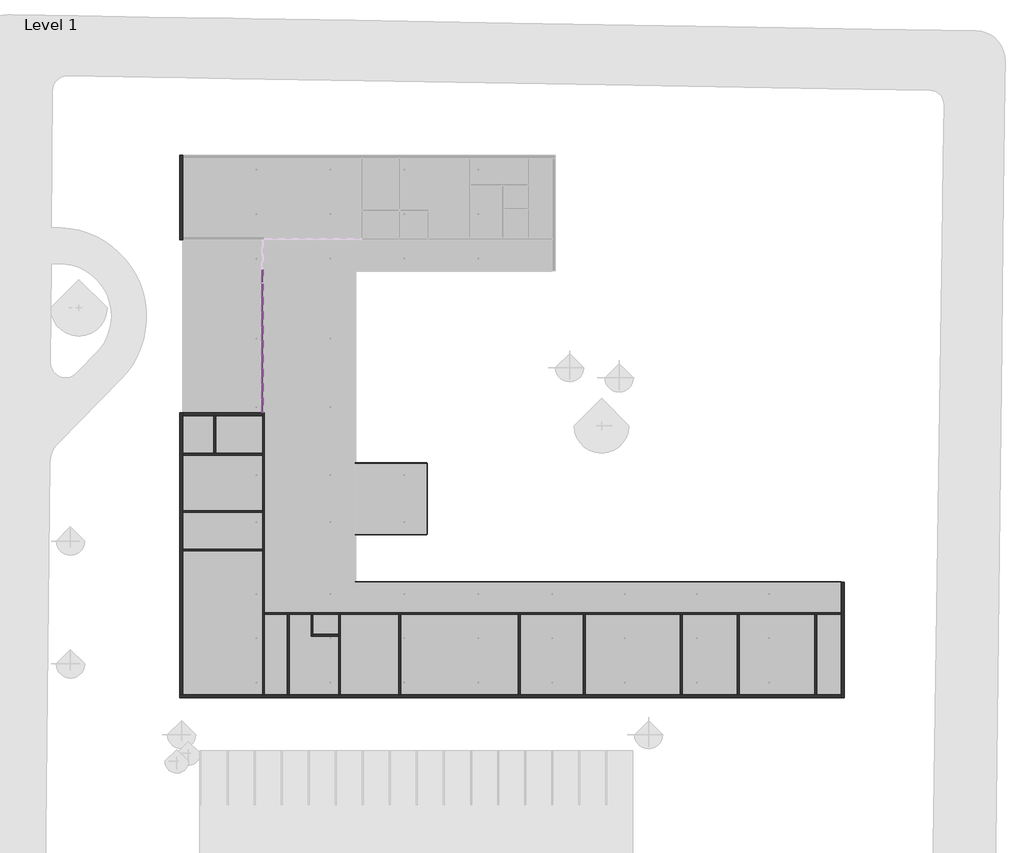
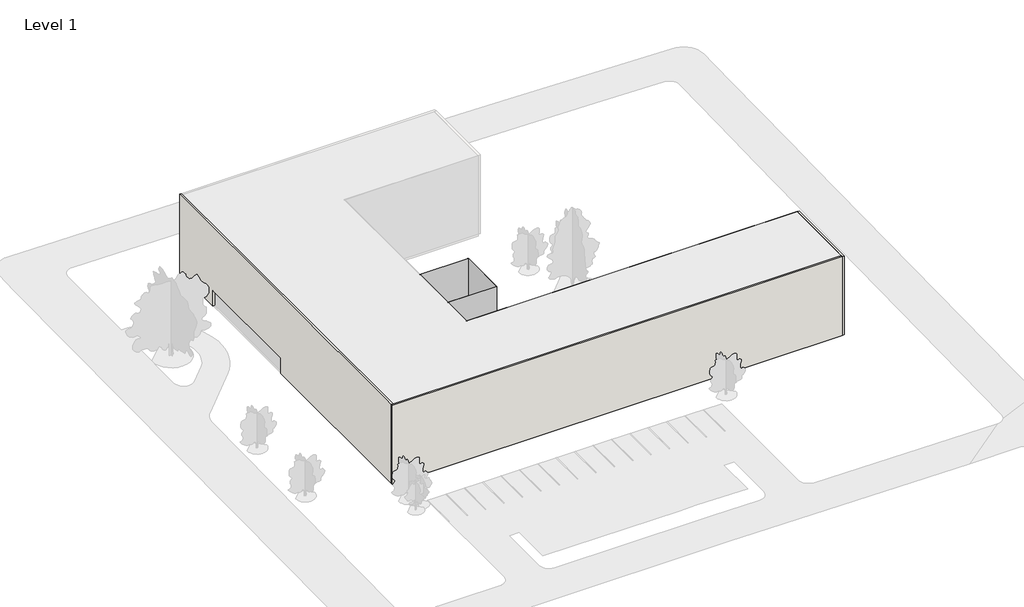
# One storey, part 1 of 3: 48 members, 24 plates, 21 walls.
"""IFC4 building model written with IfcOpenShell, lengths in millimetres."""

from ifc_helpers import new_model, si_unit, origin, origin_with_axes, place, context, project, spatial, polyline, outline, extrude, faceted_brep, transform, mapped, element, save
from components import rectangular_mullion_50mm_x_150mm_6225e4e3, rectangular_mullion_50mm_x_150mm_163d5e45, rectangular_mullion_50mm_x_150mm_662c37b1, rectangular_mullion_50mm_x_150mm_770ce294, rectangular_mullion_50mm_x_150mm_758487db, rectangular_mullion_50mm_x_150mm_08a56cfe, rectangular_mullion_50mm_x_150mm_59c12ec9, rectangular_mullion_50mm_x_150mm_5efacfcf, system_panel_glazed_1087ea87, system_panel_glazed_c5c625d1, system_panel_glazed_4d811192, system_panel_glazed_99e3e085, system_panel_glazed_d6c32529, system_panel_glazed_4e1d9d04, system_panel_glazed_46d9e1d9

model = new_model("IFC4")

# Units and contexts
model_context = context("Model", 3, world=origin())
ifc_project = project(units=[si_unit("LENGTHUNIT", "METRE", prefix="MILLI")], contexts=[model_context])

# Site, building, storey
site = spatial("IfcSite", under=ifc_project)
building = spatial("IfcBuilding", under=site)
storey = spatial("IfcBuildingStorey", under=building, Name="Level 1", Elevation=0.0)

# Members
placement = place(None, origin())
rectangular_mullion_50mm_x_150mm_shape = rectangular_mullion_50mm_x_150mm_6225e4e3(model_context)
element("IfcMember", 1, ObjectType="Rectangular Mullion : 50mm x 150mm", at=placement, inside=storey, context=model_context, shape_type="MappedRepresentation", body=[
    mapped(rectangular_mullion_50mm_x_150mm_shape, transform((-1903.8386635, 18146.0799802, 0.0), x_axis=(0.0, -1.0, 0.0), y_axis=(-1.0, 0.0, 0.0), z_axis=(0.0, 0.0, -1.0))),
])
element("IfcMember", 2, ObjectType="Rectangular Mullion : 50mm x 150mm", at=placement, inside=storey, context=model_context, shape_type="MappedRepresentation", body=[
    mapped(rectangular_mullion_50mm_x_150mm_shape, transform((-1903.8386635, 16687.9133136, 0.0), x_axis=(0.0, -1.0, 0.0), y_axis=(-1.0, 0.0, 0.0), z_axis=(0.0, 0.0, -1.0))),
])
element("IfcMember", 3, ObjectType="Rectangular Mullion : 50mm x 150mm", at=placement, inside=storey, context=model_context, shape_type="MappedRepresentation", body=[
    mapped(rectangular_mullion_50mm_x_150mm_shape, transform((-1903.8386635, 15229.746647, 0.0), x_axis=(0.0, -1.0, 0.0), y_axis=(-1.0, 0.0, 0.0), z_axis=(0.0, 0.0, -1.0))),
])
element("IfcMember", 4, ObjectType="Rectangular Mullion : 50mm x 150mm", at=placement, inside=storey, context=model_context, shape_type="MappedRepresentation", body=[
    mapped(rectangular_mullion_50mm_x_150mm_shape, transform((-1903.8386635, 13771.5799804, 0.0), x_axis=(0.0, -1.0, 0.0), y_axis=(-1.0, 0.0, 0.0), z_axis=(0.0, 0.0, -1.0))),
])
element("IfcMember", 5, ObjectType="Rectangular Mullion : 50mm x 150mm", at=placement, inside=storey, context=model_context, shape_type="MappedRepresentation", body=[
    mapped(rectangular_mullion_50mm_x_150mm_shape, transform((-1903.8386635, 12313.4133138, 0.0), x_axis=(0.0, -1.0, 0.0), y_axis=(-1.0, 0.0, 0.0), z_axis=(0.0, 0.0, -1.0))),
])
element("IfcMember", 6, ObjectType="Rectangular Mullion : 50mm x 150mm", at=placement, inside=storey, context=model_context, shape_type="MappedRepresentation", body=[
    mapped(rectangular_mullion_50mm_x_150mm_shape, transform((-1903.8386635, 10855.2466472, 0.0), x_axis=(0.0, -1.0, 0.0), y_axis=(-1.0, 0.0, 0.0), z_axis=(0.0, 0.0, -1.0))),
])
element("IfcMember", 7, ObjectType="Rectangular Mullion : 50mm x 150mm", at=placement, inside=storey, context=model_context, shape_type="MappedRepresentation", body=[
    mapped(rectangular_mullion_50mm_x_150mm_shape, transform((-1903.8386635, 9397.0799805, 0.0), x_axis=(0.0, -1.0, 0.0), y_axis=(-1.0, 0.0, 0.0), z_axis=(0.0, 0.0, -1.0))),
])
element("IfcMember", 8, ObjectType="Rectangular Mullion : 50mm x 150mm", at=placement, inside=storey, context=model_context, shape_type="MappedRepresentation", body=[
    mapped(rectangular_mullion_50mm_x_150mm_shape, transform((-1903.8386635, 7938.9133139, 0.0), x_axis=(0.0, -1.0, 0.0), y_axis=(-1.0, 0.0, 0.0), z_axis=(0.0, 0.0, -1.0))),
])
element("IfcMember", 9, ObjectType="Rectangular Mullion : 50mm x 150mm", at=placement, inside=storey, context=model_context, shape_type="MappedRepresentation", body=[
    mapped(rectangular_mullion_50mm_x_150mm_shape, transform((-1903.8386635, 6480.7466473, 0.0), x_axis=(0.0, -1.0, 0.0), y_axis=(-1.0, 0.0, 0.0), z_axis=(0.0, 0.0, -1.0))),
])
rectangular_mullion_50mm_x_150mm_2_shape = rectangular_mullion_50mm_x_150mm_163d5e45(model_context)
element("IfcMember", 10, ObjectType="Rectangular Mullion : 50mm x 150mm", at=placement, inside=storey, context=model_context, shape_type="MappedRepresentation", body=[
    mapped(rectangular_mullion_50mm_x_150mm_2_shape, transform((-1903.8386635, 16687.9133136, 2400.0), x_axis=(0.0, -1.0, 0.0), y_axis=(-1.0, 0.0, 0.0), z_axis=(0.0, 0.0, -1.0))),
])
element("IfcMember", 11, ObjectType="Rectangular Mullion : 50mm x 150mm", at=placement, inside=storey, context=model_context, shape_type="MappedRepresentation", body=[
    mapped(rectangular_mullion_50mm_x_150mm_2_shape, transform((-1903.8386635, 15229.746647, 2400.0), x_axis=(0.0, -1.0, 0.0), y_axis=(-1.0, 0.0, 0.0), z_axis=(0.0, 0.0, -1.0))),
])
element("IfcMember", 12, ObjectType="Rectangular Mullion : 50mm x 150mm", at=placement, inside=storey, context=model_context, shape_type="MappedRepresentation", body=[
    mapped(rectangular_mullion_50mm_x_150mm_2_shape, transform((-1903.8386635, 13771.5799804, 2400.0), x_axis=(0.0, -1.0, 0.0), y_axis=(-1.0, 0.0, 0.0), z_axis=(0.0, 0.0, -1.0))),
])
element("IfcMember", 13, ObjectType="Rectangular Mullion : 50mm x 150mm", at=placement, inside=storey, context=model_context, shape_type="MappedRepresentation", body=[
    mapped(rectangular_mullion_50mm_x_150mm_2_shape, transform((-1903.8386635, 12313.4133138, 2400.0), x_axis=(0.0, -1.0, 0.0), y_axis=(-1.0, 0.0, 0.0), z_axis=(0.0, 0.0, -1.0))),
])
element("IfcMember", 14, ObjectType="Rectangular Mullion : 50mm x 150mm", at=placement, inside=storey, context=model_context, shape_type="MappedRepresentation", body=[
    mapped(rectangular_mullion_50mm_x_150mm_2_shape, transform((-1903.8386635, 10855.2466472, 2400.0), x_axis=(0.0, -1.0, 0.0), y_axis=(-1.0, 0.0, 0.0), z_axis=(0.0, 0.0, -1.0))),
])
element("IfcMember", 15, ObjectType="Rectangular Mullion : 50mm x 150mm", at=placement, inside=storey, context=model_context, shape_type="MappedRepresentation", body=[
    mapped(rectangular_mullion_50mm_x_150mm_2_shape, transform((-1903.8386635, 9397.0799805, 2400.0), x_axis=(0.0, -1.0, 0.0), y_axis=(-1.0, 0.0, 0.0), z_axis=(0.0, 0.0, -1.0))),
])
element("IfcMember", 16, ObjectType="Rectangular Mullion : 50mm x 150mm", at=placement, inside=storey, context=model_context, shape_type="MappedRepresentation", body=[
    mapped(rectangular_mullion_50mm_x_150mm_2_shape, transform((-1903.8386635, 7938.9133139, 2400.0), x_axis=(0.0, -1.0, 0.0), y_axis=(-1.0, 0.0, 0.0), z_axis=(0.0, 0.0, -1.0))),
])
element("IfcMember", 17, ObjectType="Rectangular Mullion : 50mm x 150mm", at=placement, inside=storey, context=model_context, shape_type="MappedRepresentation", body=[
    mapped(rectangular_mullion_50mm_x_150mm_2_shape, transform((-1903.8386635, 6480.7466473, 2400.0), x_axis=(0.0, -1.0, 0.0), y_axis=(-1.0, 0.0, 0.0), z_axis=(0.0, 0.0, -1.0))),
])
rectangular_mullion_50mm_x_150mm_3_shape = rectangular_mullion_50mm_x_150mm_662c37b1(model_context)
element("IfcMember", 18, ObjectType="Rectangular Mullion : 50mm x 150mm", at=placement, inside=storey, context=model_context, shape_type="MappedRepresentation", body=[
    mapped(rectangular_mullion_50mm_x_150mm_3_shape, transform((-1903.8386635, 5022.5799804, 0.0), x_axis=(0.0, -1.0, 0.0), y_axis=(-1.0, 0.0, 0.0), z_axis=(0.0, 0.0, -1.0))),
])
rectangular_mullion_50mm_x_150mm_4_shape = rectangular_mullion_50mm_x_150mm_770ce294(model_context)
element("IfcMember", 19, ObjectType="Rectangular Mullion : 50mm x 150mm", at=placement, inside=storey, context=model_context, shape_type="MappedRepresentation", body=[
    mapped(rectangular_mullion_50mm_x_150mm_4_shape, transform((-1903.8386635, 5022.5799804, 2400.0), x_axis=(0.0, -1.0, 0.0), y_axis=(-1.0, 0.0, 0.0), z_axis=(0.0, 0.0, -1.0))),
])
rectangular_mullion_50mm_x_150mm_5_shape = rectangular_mullion_50mm_x_150mm_758487db(model_context)
element("IfcMember", 20, ObjectType="Rectangular Mullion : 50mm x 150mm", at=placement, inside=storey, context=model_context, shape_type="MappedRepresentation", body=[
    mapped(rectangular_mullion_50mm_x_150mm_5_shape, transform((-1903.8386635, 5072.5799804, 3550.0), x_axis=(0.0, 0.0, 1.0), y_axis=(-1.0, 0.0, 0.0), z_axis=(0.0, -1.0, 0.0))),
])
element("IfcMember", 21, ObjectType="Rectangular Mullion : 50mm x 150mm", at=placement, inside=storey, context=model_context, shape_type="MappedRepresentation", body=[
    mapped(rectangular_mullion_50mm_x_150mm_5_shape, transform((-1903.8386635, 6455.7466473, 0.0), x_axis=(0.0, 0.0, -1.0), y_axis=(-1.0, 0.0, 0.0), z_axis=(0.0, 1.0, 0.0))),
])
rectangular_mullion_50mm_x_150mm_6_shape = rectangular_mullion_50mm_x_150mm_08a56cfe(model_context)
element("IfcMember", 22, ObjectType="Rectangular Mullion : 50mm x 150mm", at=placement, inside=storey, context=model_context, shape_type="MappedRepresentation", body=[
    mapped(rectangular_mullion_50mm_x_150mm_6_shape, transform((-1903.8386635, 18171.0799802, 3550.0), x_axis=(0.0, 0.0, 1.0), y_axis=(-1.0, 0.0, 0.0), z_axis=(0.0, -1.0, 0.0))),
])
element("IfcMember", 23, ObjectType="Rectangular Mullion : 50mm x 150mm", at=placement, inside=storey, context=model_context, shape_type="MappedRepresentation", body=[
    mapped(rectangular_mullion_50mm_x_150mm_6_shape, transform((-1903.8386635, 16712.9133136, 3550.0), x_axis=(0.0, 0.0, 1.0), y_axis=(-1.0, 0.0, 0.0), z_axis=(0.0, -1.0, 0.0))),
])
element("IfcMember", 24, ObjectType="Rectangular Mullion : 50mm x 150mm", at=placement, inside=storey, context=model_context, shape_type="MappedRepresentation", body=[
    mapped(rectangular_mullion_50mm_x_150mm_6_shape, transform((-1903.8386635, 15254.746647, 3550.0), x_axis=(0.0, 0.0, 1.0), y_axis=(-1.0, 0.0, 0.0), z_axis=(0.0, -1.0, 0.0))),
])
element("IfcMember", 25, ObjectType="Rectangular Mullion : 50mm x 150mm", at=placement, inside=storey, context=model_context, shape_type="MappedRepresentation", body=[
    mapped(rectangular_mullion_50mm_x_150mm_6_shape, transform((-1903.8386635, 13796.5799804, 3550.0), x_axis=(0.0, 0.0, 1.0), y_axis=(-1.0, 0.0, 0.0), z_axis=(0.0, -1.0, 0.0))),
])
element("IfcMember", 26, ObjectType="Rectangular Mullion : 50mm x 150mm", at=placement, inside=storey, context=model_context, shape_type="MappedRepresentation", body=[
    mapped(rectangular_mullion_50mm_x_150mm_6_shape, transform((-1903.8386635, 12338.4133138, 3550.0), x_axis=(0.0, 0.0, 1.0), y_axis=(-1.0, 0.0, 0.0), z_axis=(0.0, -1.0, 0.0))),
])
element("IfcMember", 27, ObjectType="Rectangular Mullion : 50mm x 150mm", at=placement, inside=storey, context=model_context, shape_type="MappedRepresentation", body=[
    mapped(rectangular_mullion_50mm_x_150mm_6_shape, transform((-1903.8386635, 10880.2466472, 3550.0), x_axis=(0.0, 0.0, 1.0), y_axis=(-1.0, 0.0, 0.0), z_axis=(0.0, -1.0, 0.0))),
])
element("IfcMember", 28, ObjectType="Rectangular Mullion : 50mm x 150mm", at=placement, inside=storey, context=model_context, shape_type="MappedRepresentation", body=[
    mapped(rectangular_mullion_50mm_x_150mm_6_shape, transform((-1903.8386635, 9422.0799805, 3550.0), x_axis=(0.0, 0.0, 1.0), y_axis=(-1.0, 0.0, 0.0), z_axis=(0.0, -1.0, 0.0))),
])
element("IfcMember", 29, ObjectType="Rectangular Mullion : 50mm x 150mm", at=placement, inside=storey, context=model_context, shape_type="MappedRepresentation", body=[
    mapped(rectangular_mullion_50mm_x_150mm_6_shape, transform((-1903.8386635, 7963.9133139, 3550.0), x_axis=(0.0, 0.0, 1.0), y_axis=(-1.0, 0.0, 0.0), z_axis=(0.0, -1.0, 0.0))),
])
element("IfcMember", 30, ObjectType="Rectangular Mullion : 50mm x 150mm", at=placement, inside=storey, context=model_context, shape_type="MappedRepresentation", body=[
    mapped(rectangular_mullion_50mm_x_150mm_6_shape, transform((-1903.8386635, 6505.7466473, 3550.0), x_axis=(0.0, 0.0, 1.0), y_axis=(-1.0, 0.0, 0.0), z_axis=(0.0, -1.0, 0.0))),
])
element("IfcMember", 31, ObjectType="Rectangular Mullion : 50mm x 150mm", at=placement, inside=storey, context=model_context, shape_type="MappedRepresentation", body=[
    mapped(rectangular_mullion_50mm_x_150mm_6_shape, transform((-1903.8386635, 18121.0799802, 0.0), x_axis=(0.0, 0.0, -1.0), y_axis=(-1.0, 0.0, 0.0), z_axis=(0.0, 1.0, 0.0))),
])
element("IfcMember", 32, ObjectType="Rectangular Mullion : 50mm x 150mm", at=placement, inside=storey, context=model_context, shape_type="MappedRepresentation", body=[
    mapped(rectangular_mullion_50mm_x_150mm_6_shape, transform((-1903.8386635, 16662.9133136, 0.0), x_axis=(0.0, 0.0, -1.0), y_axis=(-1.0, 0.0, 0.0), z_axis=(0.0, 1.0, 0.0))),
])
element("IfcMember", 33, ObjectType="Rectangular Mullion : 50mm x 150mm", at=placement, inside=storey, context=model_context, shape_type="MappedRepresentation", body=[
    mapped(rectangular_mullion_50mm_x_150mm_6_shape, transform((-1903.8386635, 15204.746647, 0.0), x_axis=(0.0, 0.0, -1.0), y_axis=(-1.0, 0.0, 0.0), z_axis=(0.0, 1.0, 0.0))),
])
element("IfcMember", 34, ObjectType="Rectangular Mullion : 50mm x 150mm", at=placement, inside=storey, context=model_context, shape_type="MappedRepresentation", body=[
    mapped(rectangular_mullion_50mm_x_150mm_6_shape, transform((-1903.8386635, 13746.5799804, 0.0), x_axis=(0.0, 0.0, -1.0), y_axis=(-1.0, 0.0, 0.0), z_axis=(0.0, 1.0, 0.0))),
])
element("IfcMember", 35, ObjectType="Rectangular Mullion : 50mm x 150mm", at=placement, inside=storey, context=model_context, shape_type="MappedRepresentation", body=[
    mapped(rectangular_mullion_50mm_x_150mm_6_shape, transform((-1903.8386635, 12288.4133138, 0.0), x_axis=(0.0, 0.0, -1.0), y_axis=(-1.0, 0.0, 0.0), z_axis=(0.0, 1.0, 0.0))),
])
element("IfcMember", 36, ObjectType="Rectangular Mullion : 50mm x 150mm", at=placement, inside=storey, context=model_context, shape_type="MappedRepresentation", body=[
    mapped(rectangular_mullion_50mm_x_150mm_6_shape, transform((-1903.8386635, 10830.2466472, 0.0), x_axis=(0.0, 0.0, -1.0), y_axis=(-1.0, 0.0, 0.0), z_axis=(0.0, 1.0, 0.0))),
])
element("IfcMember", 37, ObjectType="Rectangular Mullion : 50mm x 150mm", at=placement, inside=storey, context=model_context, shape_type="MappedRepresentation", body=[
    mapped(rectangular_mullion_50mm_x_150mm_6_shape, transform((-1903.8386635, 9372.0799805, 0.0), x_axis=(0.0, 0.0, -1.0), y_axis=(-1.0, 0.0, 0.0), z_axis=(0.0, 1.0, 0.0))),
])
element("IfcMember", 38, ObjectType="Rectangular Mullion : 50mm x 150mm", at=placement, inside=storey, context=model_context, shape_type="MappedRepresentation", body=[
    mapped(rectangular_mullion_50mm_x_150mm_6_shape, transform((-1903.8386635, 7913.9133139, 0.0), x_axis=(0.0, 0.0, -1.0), y_axis=(-1.0, 0.0, 0.0), z_axis=(0.0, 1.0, 0.0))),
])
rectangular_mullion_50mm_x_150mm_7_shape = rectangular_mullion_50mm_x_150mm_59c12ec9(model_context)
element("IfcMember", 39, ObjectType="Rectangular Mullion : 50mm x 150mm", at=placement, inside=storey, context=model_context, shape_type="MappedRepresentation", body=[
    mapped(rectangular_mullion_50mm_x_150mm_7_shape, transform((-1903.8386635, 5072.5799804, 2400.0), x_axis=(0.0, 0.0, 1.0), y_axis=(-1.0, 0.0, 0.0), z_axis=(0.0, -1.0, 0.0))),
])
rectangular_mullion_50mm_x_150mm_8_shape = rectangular_mullion_50mm_x_150mm_5efacfcf(model_context)
element("IfcMember", 40, ObjectType="Rectangular Mullion : 50mm x 150mm", at=placement, inside=storey, context=model_context, shape_type="MappedRepresentation", body=[
    mapped(rectangular_mullion_50mm_x_150mm_8_shape, transform((-1903.8386635, 18171.0799802, 2400.0), x_axis=(0.0, 0.0, 1.0), y_axis=(-1.0, 0.0, 0.0), z_axis=(0.0, -1.0, 0.0))),
])
element("IfcMember", 41, ObjectType="Rectangular Mullion : 50mm x 150mm", at=placement, inside=storey, context=model_context, shape_type="MappedRepresentation", body=[
    mapped(rectangular_mullion_50mm_x_150mm_8_shape, transform((-1903.8386635, 16712.9133136, 2400.0), x_axis=(0.0, 0.0, 1.0), y_axis=(-1.0, 0.0, 0.0), z_axis=(0.0, -1.0, 0.0))),
])
element("IfcMember", 42, ObjectType="Rectangular Mullion : 50mm x 150mm", at=placement, inside=storey, context=model_context, shape_type="MappedRepresentation", body=[
    mapped(rectangular_mullion_50mm_x_150mm_8_shape, transform((-1903.8386635, 15254.746647, 2400.0), x_axis=(0.0, 0.0, 1.0), y_axis=(-1.0, 0.0, 0.0), z_axis=(0.0, -1.0, 0.0))),
])
element("IfcMember", 43, ObjectType="Rectangular Mullion : 50mm x 150mm", at=placement, inside=storey, context=model_context, shape_type="MappedRepresentation", body=[
    mapped(rectangular_mullion_50mm_x_150mm_8_shape, transform((-1903.8386635, 13796.5799804, 2400.0), x_axis=(0.0, 0.0, 1.0), y_axis=(-1.0, 0.0, 0.0), z_axis=(0.0, -1.0, 0.0))),
])
element("IfcMember", 44, ObjectType="Rectangular Mullion : 50mm x 150mm", at=placement, inside=storey, context=model_context, shape_type="MappedRepresentation", body=[
    mapped(rectangular_mullion_50mm_x_150mm_8_shape, transform((-1903.8386635, 12338.4133138, 2400.0), x_axis=(0.0, 0.0, 1.0), y_axis=(-1.0, 0.0, 0.0), z_axis=(0.0, -1.0, 0.0))),
])
element("IfcMember", 45, ObjectType="Rectangular Mullion : 50mm x 150mm", at=placement, inside=storey, context=model_context, shape_type="MappedRepresentation", body=[
    mapped(rectangular_mullion_50mm_x_150mm_8_shape, transform((-1903.8386635, 10880.2466472, 2400.0), x_axis=(0.0, 0.0, 1.0), y_axis=(-1.0, 0.0, 0.0), z_axis=(0.0, -1.0, 0.0))),
])
element("IfcMember", 46, ObjectType="Rectangular Mullion : 50mm x 150mm", at=placement, inside=storey, context=model_context, shape_type="MappedRepresentation", body=[
    mapped(rectangular_mullion_50mm_x_150mm_8_shape, transform((-1903.8386635, 9422.0799805, 2400.0), x_axis=(0.0, 0.0, 1.0), y_axis=(-1.0, 0.0, 0.0), z_axis=(0.0, -1.0, 0.0))),
])
element("IfcMember", 47, ObjectType="Rectangular Mullion : 50mm x 150mm", at=placement, inside=storey, context=model_context, shape_type="MappedRepresentation", body=[
    mapped(rectangular_mullion_50mm_x_150mm_8_shape, transform((-1903.8386635, 7963.9133139, 2400.0), x_axis=(0.0, 0.0, 1.0), y_axis=(-1.0, 0.0, 0.0), z_axis=(0.0, -1.0, 0.0))),
])
element("IfcMember", 48, ObjectType="Rectangular Mullion : 50mm x 150mm", at=placement, inside=storey, context=model_context, shape_type="MappedRepresentation", body=[
    mapped(rectangular_mullion_50mm_x_150mm_8_shape, transform((-1903.8386635, 6505.7466473, 2400.0), x_axis=(0.0, 0.0, 1.0), y_axis=(-1.0, 0.0, 0.0), z_axis=(0.0, -1.0, 0.0))),
])

# Plates
system_panel_glazed_shape = system_panel_glazed_1087ea87(model_context)
element("IfcPlate", 49, ObjectType="System Panel : Glazed", at=placement, inside=storey, context=model_context, shape_type="MappedRepresentation", body=[
    mapped(system_panel_glazed_shape, transform((32073.3092053, -12132.3615692, 0.0), x_axis=(-1.0, 0.0, 0.0), y_axis=(0.0, -1.0, 0.0), z_axis=(0.0, 0.0, 1.0))),
])
system_panel_glazed_2_shape = system_panel_glazed_c5c625d1(model_context)
element("IfcPlate", 50, ObjectType="System Panel : Glazed", at=placement, inside=storey, context=model_context, shape_type="MappedRepresentation", body=[
    mapped(system_panel_glazed_2_shape, transform((11078.2956387, -89.4607941, 0.0), x_axis=(-1.0, 0.0, 0.0), y_axis=(0.0, -1.0, 0.0), z_axis=(0.0, 0.0, 1.0))),
])
element("IfcPlate", 51, ObjectType="System Panel : Glazed", at=placement, inside=storey, context=model_context, shape_type="MappedRepresentation", body=[
    mapped(system_panel_glazed_2_shape, transform((11078.2956387, -7283.8611817, 0.0), x_axis=(1.0, 0.0, 0.0), y_axis=(0.0, 1.0, 0.0), z_axis=(0.0, 0.0, 1.0))),
])
system_panel_glazed_3_shape = system_panel_glazed_4d811192(model_context)
element("IfcPlate", 52, ObjectType="System Panel : Glazed", at=placement, inside=storey, context=model_context, shape_type="MappedRepresentation", body=[
    mapped(system_panel_glazed_3_shape, transform((14709.0902051, -3686.6609879, 0.0), x_axis=(0.0, 1.0, 0.0), y_axis=(-1.0, 0.0, 0.0), z_axis=(0.0, 0.0, 1.0))),
])
system_panel_glazed_4_shape = system_panel_glazed_99e3e085(model_context)
element("IfcPlate", 53, ObjectType="System Panel : Glazed", at=placement, inside=storey, context=model_context, shape_type="MappedRepresentation", body=[
    mapped(system_panel_glazed_4_shape, transform((-1903.8386635, 5764.1633138, 50.0), x_axis=(0.0, -1.0, 0.0), y_axis=(1.0, 0.0, 0.0), z_axis=(0.0, 0.0, 1.0))),
])
system_panel_glazed_5_shape = system_panel_glazed_d6c32529(model_context)
element("IfcPlate", 54, ObjectType="System Panel : Glazed", at=placement, inside=storey, context=model_context, shape_type="MappedRepresentation", body=[
    mapped(system_panel_glazed_5_shape, transform((-1903.8386635, 18875.1633135, 50.0), x_axis=(0.0, -1.0, 0.0), y_axis=(1.0, 0.0, 0.0), z_axis=(0.0, 0.0, 1.0))),
])
element("IfcPlate", 55, ObjectType="System Panel : Glazed", at=placement, inside=storey, context=model_context, shape_type="MappedRepresentation", body=[
    mapped(system_panel_glazed_5_shape, transform((-1903.8386635, 17416.9966469, 50.0), x_axis=(0.0, -1.0, 0.0), y_axis=(1.0, 0.0, 0.0), z_axis=(0.0, 0.0, 1.0))),
])
element("IfcPlate", 56, ObjectType="System Panel : Glazed", at=placement, inside=storey, context=model_context, shape_type="MappedRepresentation", body=[
    mapped(system_panel_glazed_5_shape, transform((-1903.8386635, 15958.8299803, 50.0), x_axis=(0.0, -1.0, 0.0), y_axis=(1.0, 0.0, 0.0), z_axis=(0.0, 0.0, 1.0))),
])
element("IfcPlate", 57, ObjectType="System Panel : Glazed", at=placement, inside=storey, context=model_context, shape_type="MappedRepresentation", body=[
    mapped(system_panel_glazed_5_shape, transform((-1903.8386635, 14500.6633137, 50.0), x_axis=(0.0, -1.0, 0.0), y_axis=(1.0, 0.0, 0.0), z_axis=(0.0, 0.0, 1.0))),
])
element("IfcPlate", 58, ObjectType="System Panel : Glazed", at=placement, inside=storey, context=model_context, shape_type="MappedRepresentation", body=[
    mapped(system_panel_glazed_5_shape, transform((-1903.8386635, 13042.4966471, 50.0), x_axis=(0.0, -1.0, 0.0), y_axis=(1.0, 0.0, 0.0), z_axis=(0.0, 0.0, 1.0))),
])
element("IfcPlate", 59, ObjectType="System Panel : Glazed", at=placement, inside=storey, context=model_context, shape_type="MappedRepresentation", body=[
    mapped(system_panel_glazed_5_shape, transform((-1903.8386635, 11584.3299805, 50.0), x_axis=(0.0, -1.0, 0.0), y_axis=(1.0, 0.0, 0.0), z_axis=(0.0, 0.0, 1.0))),
])
element("IfcPlate", 60, ObjectType="System Panel : Glazed", at=placement, inside=storey, context=model_context, shape_type="MappedRepresentation", body=[
    mapped(system_panel_glazed_5_shape, transform((-1903.8386635, 10126.1633138, 50.0), x_axis=(0.0, -1.0, 0.0), y_axis=(1.0, 0.0, 0.0), z_axis=(0.0, 0.0, 1.0))),
])
element("IfcPlate", 61, ObjectType="System Panel : Glazed", at=placement, inside=storey, context=model_context, shape_type="MappedRepresentation", body=[
    mapped(system_panel_glazed_5_shape, transform((-1903.8386635, 8667.9966472, 50.0), x_axis=(0.0, -1.0, 0.0), y_axis=(1.0, 0.0, 0.0), z_axis=(0.0, 0.0, 1.0))),
])
element("IfcPlate", 62, ObjectType="System Panel : Glazed", at=placement, inside=storey, context=model_context, shape_type="MappedRepresentation", body=[
    mapped(system_panel_glazed_5_shape, transform((-1903.8386635, 7209.8299806, 50.0), x_axis=(0.0, -1.0, 0.0), y_axis=(1.0, 0.0, 0.0), z_axis=(0.0, 0.0, 1.0))),
])
system_panel_glazed_6_shape = system_panel_glazed_4e1d9d04(model_context)
element("IfcPlate", 63, ObjectType="System Panel : Glazed", at=placement, inside=storey, context=model_context, shape_type="MappedRepresentation", body=[
    mapped(system_panel_glazed_6_shape, transform((-1903.8386635, 5764.1633138, 2425.0), x_axis=(0.0, -1.0, 0.0), y_axis=(1.0, 0.0, 0.0), z_axis=(0.0, 0.0, 1.0))),
])
system_panel_glazed_7_shape = system_panel_glazed_46d9e1d9(model_context)
element("IfcPlate", 64, ObjectType="System Panel : Glazed", at=placement, inside=storey, context=model_context, shape_type="MappedRepresentation", body=[
    mapped(system_panel_glazed_7_shape, transform((-1903.8386635, 18875.1633135, 2425.0), x_axis=(0.0, -1.0, 0.0), y_axis=(1.0, 0.0, 0.0), z_axis=(0.0, 0.0, 1.0))),
])
element("IfcPlate", 65, ObjectType="System Panel : Glazed", at=placement, inside=storey, context=model_context, shape_type="MappedRepresentation", body=[
    mapped(system_panel_glazed_7_shape, transform((-1903.8386635, 17416.9966469, 2425.0), x_axis=(0.0, -1.0, 0.0), y_axis=(1.0, 0.0, 0.0), z_axis=(0.0, 0.0, 1.0))),
])
element("IfcPlate", 66, ObjectType="System Panel : Glazed", at=placement, inside=storey, context=model_context, shape_type="MappedRepresentation", body=[
    mapped(system_panel_glazed_7_shape, transform((-1903.8386635, 15958.8299803, 2425.0), x_axis=(0.0, -1.0, 0.0), y_axis=(1.0, 0.0, 0.0), z_axis=(0.0, 0.0, 1.0))),
])
element("IfcPlate", 67, ObjectType="System Panel : Glazed", at=placement, inside=storey, context=model_context, shape_type="MappedRepresentation", body=[
    mapped(system_panel_glazed_7_shape, transform((-1903.8386635, 14500.6633137, 2425.0), x_axis=(0.0, -1.0, 0.0), y_axis=(1.0, 0.0, 0.0), z_axis=(0.0, 0.0, 1.0))),
])
element("IfcPlate", 68, ObjectType="System Panel : Glazed", at=placement, inside=storey, context=model_context, shape_type="MappedRepresentation", body=[
    mapped(system_panel_glazed_7_shape, transform((-1903.8386635, 13042.4966471, 2425.0), x_axis=(0.0, -1.0, 0.0), y_axis=(1.0, 0.0, 0.0), z_axis=(0.0, 0.0, 1.0))),
])
element("IfcPlate", 69, ObjectType="System Panel : Glazed", at=placement, inside=storey, context=model_context, shape_type="MappedRepresentation", body=[
    mapped(system_panel_glazed_7_shape, transform((-1903.8386635, 11584.3299805, 2425.0), x_axis=(0.0, -1.0, 0.0), y_axis=(1.0, 0.0, 0.0), z_axis=(0.0, 0.0, 1.0))),
])
element("IfcPlate", 70, ObjectType="System Panel : Glazed", at=placement, inside=storey, context=model_context, shape_type="MappedRepresentation", body=[
    mapped(system_panel_glazed_7_shape, transform((-1903.8386635, 10126.1633138, 2425.0), x_axis=(0.0, -1.0, 0.0), y_axis=(1.0, 0.0, 0.0), z_axis=(0.0, 0.0, 1.0))),
])
element("IfcPlate", 71, ObjectType="System Panel : Glazed", at=placement, inside=storey, context=model_context, shape_type="MappedRepresentation", body=[
    mapped(system_panel_glazed_7_shape, transform((-1903.8386635, 8667.9966472, 2425.0), x_axis=(0.0, -1.0, 0.0), y_axis=(1.0, 0.0, 0.0), z_axis=(0.0, 0.0, 1.0))),
])
element("IfcPlate", 72, ObjectType="System Panel : Glazed", at=placement, inside=storey, context=model_context, shape_type="MappedRepresentation", body=[
    mapped(system_panel_glazed_7_shape, transform((-1903.8386635, 7209.8299806, 2425.0), x_axis=(0.0, -1.0, 0.0), y_axis=(1.0, 0.0, 0.0), z_axis=(0.0, 0.0, 1.0))),
])

# Walls
element("IfcWall", 73, ObjectType="P6 184mm - 1HR - ULC #W453", at=placement, inside=storey, context=model_context, shape_type="Brep", body=[
    faceted_brep([(-1728.8386635, -15396.7006057, 0.0), (581.1613365, -15396.7006057, 0.0), (771.1613365, -15396.7006057, 0.0), (2992.1613365, -15396.7006057, 0.0), (3176.1613365, -15396.7006057, 0.0), (5769.1968037, -15396.7006057, 0.0), (5953.1968037, -15396.7006057, 0.0), (11869.1968037, -15396.7006057, 0.0), (12053.1968037, -15396.7006057, 0.0), (23969.1968037, -15396.7006057, 0.0), (24153.1968037, -15396.7006057, 0.0), (30569.1968037, -15396.7006057, 0.0), (30753.1968037, -15396.7006057, 0.0), (40369.1968037, -15396.7006057, 0.0), (40553.1968037, -15396.7006057, 0.0), (46169.1968037, -15396.7006057, 0.0), (46353.1968037, -15396.7006057, 0.0), (54009.1173382, -15396.7006057, 0.0), (54199.1173382, -15396.7006057, 0.0), (56699.1173382, -15396.7006057, 0.0), (56699.1173382, -15396.7006057, 3550.0), (54199.1173382, -15396.7006057, 3550.0), (54009.1173382, -15396.7006057, 3550.0), (46353.1968037, -15396.7006057, 3550.0), (46169.1968037, -15396.7006057, 3550.0), (40553.1968037, -15396.7006057, 3550.0), (40369.1968037, -15396.7006057, 3550.0), (30753.1968037, -15396.7006057, 3550.0), (30569.1968037, -15396.7006057, 3550.0), (24153.1968037, -15396.7006057, 3550.0), (23969.1968037, -15396.7006057, 3550.0), (12053.1968037, -15396.7006057, 3550.0), (11869.1968037, -15396.7006057, 3550.0), (5953.1968037, -15396.7006057, 3550.0), (5769.1968037, -15396.7006057, 3550.0), (3176.1613365, -15396.7006057, 3550.0), (2992.1613365, -15396.7006057, 3550.0), (771.1613365, -15396.7006057, 3550.0), (581.1613365, -15396.7006057, 3550.0), (-1728.8386635, -15396.7006057, 3550.0), (-1728.8386635, -15212.7006057, 0.0), (-1728.8386635, -15212.7006057, 3550.0), (56699.1173382, -15212.7006057, 3550.0), (56699.1173382, -15212.7006057, 0.0), (-1728.8386635, -15304.7006057, 0.0), (-1728.8386635, -15304.7006057, 3550.0)], [[[0, 1, 2, 3, 4, 5, 6, 7, 8, 9, 10, 11, 12, 13, 14, 15, 16, 17, 18, 19, 20, 21, 22, 23, 24, 25, 26, 27, 28, 29, 30, 31, 32, 33, 34, 35, 36, 37, 38, 39]], [[40, 41, 42, 43]], [[19, 18, 17, 16, 15, 14, 13, 12, 11, 10, 9, 8, 7, 6, 5, 4, 3, 2, 1, 0, 44, 40, 43]], [[39, 38, 37, 36, 35, 34, 33, 32, 31, 30, 29, 28, 27, 26, 25, 24, 23, 22, 21, 20, 42, 41, 45]], [[20, 19, 43, 42]], [[0, 39, 45, 41, 40, 44]]]),
])
element("IfcWall", 74, ObjectType="P6 184mm - 1HR - ULC #W453", at=placement, inside=storey, context=model_context, shape_type="Brep", body=[
    faceted_brep([(-1912.8386635, 5022.5799804, 0.0), (-1912.8386635, 4720.5799804, 0.0), (-1912.8386635, 910.5392059, 0.0), (-1912.8386635, 726.5392059, 0.0), (-1912.8386635, -4883.8611817, 0.0), (-1912.8386635, -5067.8611817, 0.0), (-1912.8386635, -8783.8611817, 0.0), (-1912.8386635, -8967.8611817, 0.0), (-1912.8386635, -15304.7006057, 0.0), (-1912.8386635, -15304.7006057, 3550.0), (-1912.8386635, -8967.8611817, 3550.0), (-1912.8386635, -8783.8611817, 3550.0), (-1912.8386635, -5067.8611817, 3550.0), (-1912.8386635, -4883.8611817, 3550.0), (-1912.8386635, 726.5392059, 3550.0), (-1912.8386635, 910.5392059, 3550.0), (-1912.8386635, 4720.5799804, 3550.0), (-1912.8386635, 5022.5799804, 3550.0), (-1728.8386635, 5022.5799804, 0.0), (-1728.8386635, 5022.5799804, 3550.0), (-1728.8386635, -15212.7006057, 3550.0), (-1728.8386635, -15304.7006057, 3550.0), (-1728.8386635, -15304.7006057, 0.0), (-1728.8386635, -15212.7006057, 0.0)], [[[0, 1, 2, 3, 4, 5, 6, 7, 8, 9, 10, 11, 12, 13, 14, 15, 16, 17]], [[18, 19, 20, 21, 22, 23]], [[8, 7, 6, 5, 4, 3, 2, 1, 0, 18, 23, 22]], [[9, 8, 22, 21]], [[17, 16, 15, 14, 13, 12, 11, 10, 9, 21, 20, 19]], [[0, 17, 19, 18]]]),
])
element("IfcWall", 75, ObjectType="P6 184mm - 1HR - ULC #W453", at=placement, inside=storey, context=model_context, shape_type="Brep", body=[
    faceted_brep([(-10026.8386635, 726.5392059, 0.0), (-1912.8386635, 726.5392059, 0.0), (-1912.8386635, 726.5392059, 3550.0), (-10026.8386635, 726.5392059, 3550.0), (-10026.8386635, 910.5392059, 0.0), (-10026.8386635, 910.5392059, 3550.0), (-6861.8386635, 910.5392059, 3550.0), (-6677.8386635, 910.5392059, 3550.0), (-1912.8386635, 910.5392059, 3550.0), (-1912.8386635, 910.5392059, 0.0), (-6677.8386635, 910.5392059, 0.0), (-6861.8386635, 910.5392059, 0.0)], [[[0, 1, 2, 3]], [[4, 5, 6, 7, 8, 9, 10, 11]], [[1, 0, 4, 11, 10, 9]], [[3, 2, 8, 7, 6, 5]], [[0, 3, 5, 4]], [[2, 1, 9, 8]]]),
])
element("IfcWall", 76, ObjectType="P6 184mm - 1HR - ULC #W453", at=placement, inside=storey, context=model_context, shape_type="SweptSolid", body=[
    extrude(outline(polyline([(-6861.8386635, 910.5392059), (-6861.8386635, 4720.5799804), (-6677.8386635, 4720.5799804), (-6677.8386635, 910.5392059), (-6861.8386635, 910.5392059)])), origin_with_axes(), (0.0, 0.0, 1.0), 3550.0),
])
element("IfcWall", 77, ObjectType="P6 184mm - 1HR - ULC #W453", at=placement, inside=storey, context=model_context, shape_type="SweptSolid", body=[
    extrude(outline(polyline([(-1912.8386635, -5067.8611817), (-10026.8386635, -5067.8611817), (-10026.8386635, -4883.8611817), (-1912.8386635, -4883.8611817), (-1912.8386635, -5067.8611817)])), origin_with_axes(), (0.0, 0.0, 1.0), 3550.0),
])
element("IfcWall", 78, ObjectType="P6 184mm - 1HR - ULC #W453", at=placement, inside=storey, context=model_context, shape_type="SweptSolid", body=[
    extrude(outline(polyline([(-1912.8386635, -8967.8611817), (-10026.8386635, -8967.8611817), (-10026.8386635, -8783.8611817), (-1912.8386635, -8783.8611817), (-1912.8386635, -8967.8611817)])), origin_with_axes(), (0.0, 0.0, 1.0), 3550.0),
])
element("IfcWall", 79, ObjectType="P6 184mm - 1HR - ULC #W453", at=placement, inside=storey, context=model_context, shape_type="Brep", body=[
    faceted_brep([(5769.1968037, -15396.7006057, 0.0), (5769.1968037, -17412.7006057, 0.0), (5769.1968037, -17596.7006057, 0.0), (5769.1968037, -23510.7006057, 0.0), (5769.1968037, -23510.7006057, 3550.0), (5769.1968037, -17596.7006057, 3550.0), (5769.1968037, -17412.7006057, 3550.0), (5769.1968037, -15396.7006057, 3550.0), (5953.1968037, -15396.7006057, 0.0), (5953.1968037, -15396.7006057, 3550.0), (5953.1968037, -23510.7006057, 3550.0), (5953.1968037, -23510.7006057, 0.0)], [[[0, 1, 2, 3, 4, 5, 6, 7]], [[8, 9, 10, 11]], [[3, 2, 1, 0, 8, 11]], [[7, 6, 5, 4, 10, 9]], [[0, 7, 9, 8]], [[4, 3, 11, 10]]]),
])
element("IfcWall", 80, ObjectType="P6 184mm - 1HR - ULC #W453", at=placement, inside=storey, context=model_context, shape_type="Brep", body=[
    faceted_brep([(2992.1613365, -15396.7006057, 0.0), (2992.1613365, -17596.7006057, 0.0), (2992.1613365, -17596.7006057, 3550.0), (2992.1613365, -15396.7006057, 3550.0), (3176.1613365, -15396.7006057, 0.0), (3176.1613365, -15396.7006057, 3550.0), (3176.1613365, -17412.7006057, 3550.0), (3176.1613365, -17596.7006057, 3550.0), (3176.1613365, -17596.7006057, 0.0), (3176.1613365, -17412.7006057, 0.0)], [[[0, 1, 2, 3]], [[4, 5, 6, 7, 8, 9]], [[1, 0, 4, 9, 8]], [[3, 2, 7, 6, 5]], [[0, 3, 5, 4]], [[2, 1, 8, 7]]]),
])
element("IfcWall", 81, ObjectType="P6 184mm - 1HR - ULC #W453", at=placement, inside=storey, context=model_context, shape_type="SweptSolid", body=[
    extrude(outline(polyline([(3176.1613365, -17412.7006057), (5769.1968037, -17412.7006057), (5769.1968037, -17596.7006057), (3176.1613365, -17596.7006057), (3176.1613365, -17412.7006057)])), origin_with_axes(), (0.0, 0.0, 1.0), 3550.0),
])
element("IfcWall", 82, ObjectType="Exterior - EIFS on Mtl Stud", at=placement, inside=storey, context=model_context, shape_type="Brep", body=[
    faceted_brep([(57001.1173382, -23812.7006057, 0.0), (57001.1173382, -12132.3615692, 0.0), (57001.1173382, -12132.3615692, 12400.0), (57001.1173382, -23812.7006057, 12400.0), (56699.1173382, -23812.7006057, 0.0), (56699.1173382, -23812.7006057, 12400.0), (56699.1173382, -23510.7006057, 12400.0), (56699.1173382, -12132.3615692, 12400.0), (56699.1173382, -12132.3615692, 0.0), (56699.1173382, -15212.7006057, 0.0), (56699.1173382, -15396.7006057, 0.0), (56699.1173382, -23510.7006057, 0.0)], [[[0, 1, 2, 3]], [[4, 5, 6, 7, 8, 9, 10, 11]], [[1, 0, 4, 11, 10, 9, 8]], [[2, 1, 8, 7]], [[3, 2, 7, 6, 5]], [[0, 3, 5, 4]]]),
])
element("IfcWall", 83, ObjectType="Exterior - EIFS on Mtl Stud", at=placement, inside=storey, context=model_context, shape_type="Brep", body=[
    faceted_brep([(-10328.8386635, -23812.7006057, 0.0), (56699.1173382, -23812.7006057, 0.0), (56699.1173382, -23812.7006057, 12400.0), (-10328.8386635, -23812.7006057, 12400.0), (-10328.8386635, -23510.7006057, 0.0), (-10328.8386635, -23510.7006057, 12400.0), (-10026.8386635, -23510.7006057, 12400.0), (56699.1173382, -23510.7006057, 12400.0), (56699.1173382, -23510.7006057, 0.0), (54199.1173382, -23510.7006057, 0.0), (54009.1173382, -23510.7006057, 0.0), (46353.1968037, -23510.7006057, 0.0), (46169.1968037, -23510.7006057, 0.0), (40553.1968037, -23510.7006057, 0.0), (40369.1968037, -23510.7006057, 0.0), (30753.1968037, -23510.7006057, 0.0), (30569.1968037, -23510.7006057, 0.0), (24153.1968037, -23510.7006057, 0.0), (23969.1968037, -23510.7006057, 0.0), (12053.1968037, -23510.7006057, 0.0), (11869.1968037, -23510.7006057, 0.0), (5953.1968037, -23510.7006057, 0.0), (5769.1968037, -23510.7006057, 0.0), (771.1613365, -23510.7006057, 0.0), (581.1613365, -23510.7006057, 0.0), (-1728.8386635, -23510.7006057, 0.0), (-1918.8386635, -23510.7006057, 0.0), (-10026.8386635, -23510.7006057, 0.0)], [[[0, 1, 2, 3]], [[4, 5, 6, 7, 8, 9, 10, 11, 12, 13, 14, 15, 16, 17, 18, 19, 20, 21, 22, 23, 24, 25, 26, 27]], [[1, 0, 4, 27, 26, 25, 24, 23, 22, 21, 20, 19, 18, 17, 16, 15, 14, 13, 12, 11, 10, 9, 8]], [[3, 2, 7, 6, 5]], [[2, 1, 8, 7]], [[0, 3, 5, 4]]]),
])
element("IfcWall", 84, ObjectType="Exterior - EIFS on Mtl Stud", at=placement, inside=storey, context=model_context, shape_type="Brep", body=[
    faceted_brep([(-10328.8386635, -23510.7006057, 0.0), (-10328.8386635, -23510.7006057, 12400.0), (-10328.8386635, 31120.5799804, 12400.0), (-10328.8386635, 31120.5799804, 0.0), (-10328.8386635, 22520.5799804, 0.0), (-10328.8386635, 22520.5799804, 2438.4), (-10328.8386635, 5022.5799804, 2438.4), (-10328.8386635, 5022.5799804, 0.0), (-10026.8386635, -23510.7006057, 12400.0), (-10026.8386635, -23510.7006057, 0.0), (-10026.8386635, -8967.8611817, 0.0), (-10026.8386635, -8783.8611817, 0.0), (-10026.8386635, -5067.8611817, 0.0), (-10026.8386635, -4883.8611817, 0.0), (-10026.8386635, 726.5392059, 0.0), (-10026.8386635, 910.5392059, 0.0), (-10026.8386635, 4720.5799804, 0.0), (-10026.8386635, 5022.5799804, 0.0), (-10026.8386635, 5022.5799804, 2438.4), (-10026.8386635, 22520.5799804, 2438.4), (-10026.8386635, 22520.5799804, 0.0), (-10026.8386635, 22822.5799804, 0.0), (-10026.8386635, 30818.5799804, 0.0), (-10026.8386635, 31120.5799804, 0.0), (-10026.8386635, 31120.5799804, 12400.0), (-10026.8386635, 30818.5799804, 12400.0)], [[[0, 1, 2, 3, 4, 5, 6, 7]], [[8, 9, 10, 11, 12, 13, 14, 15, 16, 17, 18, 19, 20, 21, 22, 23, 24, 25]], [[9, 0, 7, 17, 16, 15, 14, 13, 12, 11, 10]], [[3, 23, 22, 21, 20, 4]], [[2, 1, 8, 25, 24]], [[1, 0, 9, 8]], [[3, 2, 24, 23]], [[5, 19, 18, 6]], [[6, 18, 17, 7]], [[19, 5, 4, 20]]]),
])
element("IfcWall", 85, ObjectType="Exterior - EIFS on Mtl Stud", at=placement, inside=storey, context=model_context, shape_type="Brep", body=[
    faceted_brep([(-1912.8386635, 5022.5799804, 0.0), (-10026.8386635, 5022.5799804, 0.0), (-10026.8386635, 5022.5799804, 2438.4), (-10026.8386635, 5022.5799804, 3550.0), (-1912.8386635, 5022.5799804, 3550.0), (-1912.8386635, 4720.5799804, 0.0), (-1912.8386635, 4720.5799804, 3550.0), (-6677.8386635, 4720.5799804, 3550.0), (-6861.8386635, 4720.5799804, 3550.0), (-10026.8386635, 4720.5799804, 3550.0), (-10026.8386635, 4720.5799804, 0.0), (-6861.8386635, 4720.5799804, 0.0), (-6677.8386635, 4720.5799804, 0.0)], [[[0, 1, 2, 3, 4]], [[5, 6, 7, 8, 9, 10, 11, 12]], [[1, 0, 5, 12, 11, 10]], [[4, 3, 9, 8, 7, 6]], [[3, 2, 1, 10, 9]], [[0, 4, 6, 5]]]),
])
element("IfcWall", 86, ObjectType="P28 190mm CMU 2 HR", at=placement, inside=storey, context=model_context, shape_type="SweptSolid", body=[
    extrude(outline(polyline([(581.1613365, -23510.7006057), (581.1613365, -15396.7006057), (771.1613365, -15396.7006057), (771.1613365, -23510.7006057), (581.1613365, -23510.7006057)])), origin_with_axes(), (0.0, 0.0, 1.0), 3550.0),
])
element("IfcWall", 87, ObjectType="P28 190mm CMU 2 HR", at=placement, inside=storey, context=model_context, shape_type="Brep", body=[
    faceted_brep([(-1918.8386635, -15304.7006057, 0.0), (-1918.8386635, -23510.7006057, 0.0), (-1918.8386635, -23510.7006057, 3550.0), (-1918.8386635, -15304.7006057, 3550.0), (-1728.8386635, -15304.7006057, 0.0), (-1728.8386635, -15304.7006057, 3550.0), (-1728.8386635, -15396.7006057, 3550.0), (-1728.8386635, -23510.7006057, 3550.0), (-1728.8386635, -23510.7006057, 0.0), (-1728.8386635, -15396.7006057, 0.0), (-1912.8386635, -15304.7006057, 0.0), (-1912.8386635, -15304.7006057, 3550.0)], [[[0, 1, 2, 3]], [[4, 5, 6, 7, 8, 9]], [[1, 0, 10, 4, 9, 8]], [[3, 2, 7, 6, 5, 11]], [[0, 3, 11, 5, 4, 10]], [[2, 1, 8, 7]]]),
])
element("IfcWall", 88, ObjectType="P28 190mm CMU 2 HR", at=placement, inside=storey, context=model_context, shape_type="SweptSolid", body=[
    extrude(outline(polyline([(54009.1173382, -23510.7006057), (54009.1173382, -15396.7006057), (54199.1173382, -15396.7006057), (54199.1173382, -23510.7006057), (54009.1173382, -23510.7006057)])), origin_with_axes(), (0.0, 0.0, 1.0), 3550.0),
])
element("IfcWall", 89, ObjectType="P4 184mm", at=placement, inside=storey, context=model_context, shape_type="SweptSolid", body=[
    extrude(outline(polyline([(11869.1968037, -23510.7006057), (11869.1968037, -15396.7006057), (12053.1968037, -15396.7006057), (12053.1968037, -23510.7006057), (11869.1968037, -23510.7006057)])), origin_with_axes(), (0.0, 0.0, 1.0), 3550.0),
])
element("IfcWall", 90, ObjectType="P4 184mm", at=placement, inside=storey, context=model_context, shape_type="SweptSolid", body=[
    extrude(outline(polyline([(23969.1968037, -23510.7006057), (23969.1968037, -15396.7006057), (24153.1968037, -15396.7006057), (24153.1968037, -23510.7006057), (23969.1968037, -23510.7006057)])), origin_with_axes(), (0.0, 0.0, 1.0), 3550.0),
])
element("IfcWall", 91, ObjectType="P4 184mm", at=placement, inside=storey, context=model_context, shape_type="SweptSolid", body=[
    extrude(outline(polyline([(30569.1968037, -23510.7006057), (30569.1968037, -15396.7006057), (30753.1968037, -15396.7006057), (30753.1968037, -23510.7006057), (30569.1968037, -23510.7006057)])), origin_with_axes(), (0.0, 0.0, 1.0), 3550.0),
])
element("IfcWall", 92, ObjectType="P4 184mm", at=placement, inside=storey, context=model_context, shape_type="SweptSolid", body=[
    extrude(outline(polyline([(40369.1968037, -23510.7006057), (40369.1968037, -15396.7006057), (40553.1968037, -15396.7006057), (40553.1968037, -23510.7006057), (40369.1968037, -23510.7006057)])), origin_with_axes(), (0.0, 0.0, 1.0), 3550.0),
])
element("IfcWall", 93, ObjectType="P4 184mm", at=placement, inside=storey, context=model_context, shape_type="SweptSolid", body=[
    extrude(outline(polyline([(46169.1968037, -23510.7006057), (46169.1968037, -15396.7006057), (46353.1968037, -15396.7006057), (46353.1968037, -23510.7006057), (46169.1968037, -23510.7006057)])), origin_with_axes(), (0.0, 0.0, 1.0), 3550.0),
])

save(model, "model.ifc")
